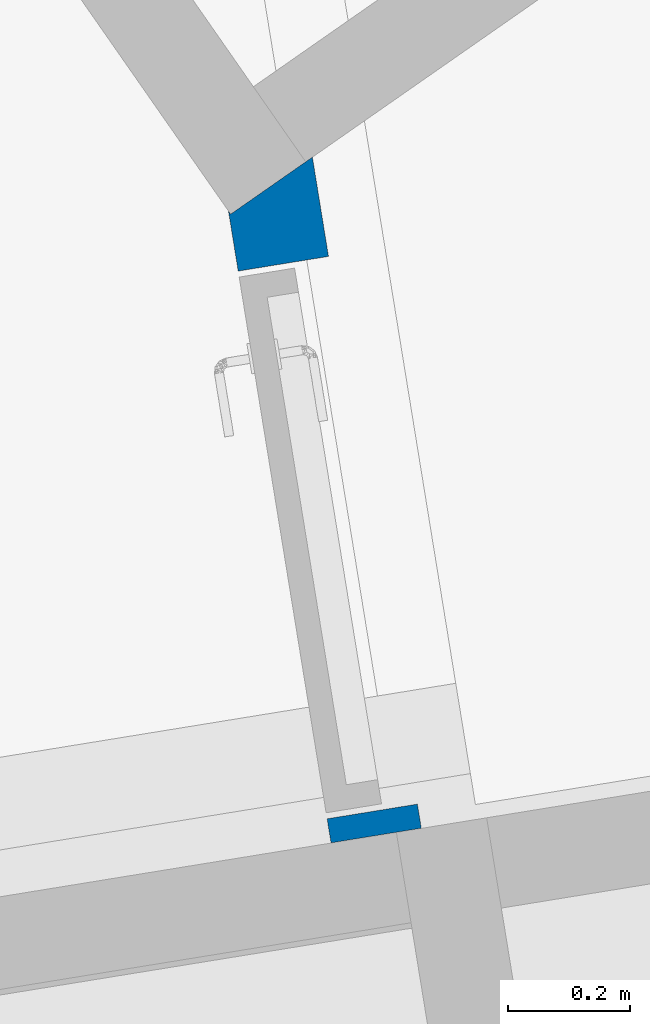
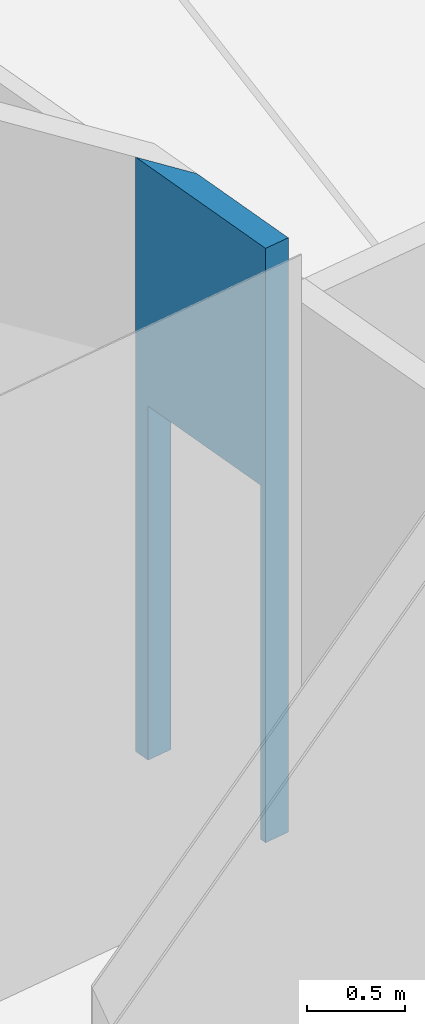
# One storey, part 19 of 23: 1 wall, 1 opening.
"""IFC2X3 building model written with IfcOpenShell, lengths in millimetres."""

from ifc_helpers import new_model, entity, si_unit, converted_unit, derived_unit, direction, frame, frame_2d, origin, origin_with_axes, place, context, subcontext, project, spatial, rectangle, extrude, faceted_brep, material, layer, layer_set, type_object, element, save


model = new_model("IFC2X3")

# Units and contexts
plan_context = context("Plan", 3, precision=1e-05, world=origin_with_axes())
model_context = context("Model", 3, precision=0.01, world=origin(), true_north=direction((6.12323399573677e-17, 1.0)))
body_context = subcontext(model_context, "Body", "Model", "MODEL_VIEW")
ifc_project = project(units=[converted_unit("PLANEANGLEUNIT", "DEGREE", entity("IfcPositiveLengthMeasure", 0.0174532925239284), si_unit("PLANEANGLEUNIT", "RADIAN"), dimensions=[0, 0, 0, 0, 0, 0, 0]), si_unit("AREAUNIT", "SQUARE_METRE"), si_unit("LENGTHUNIT", "METRE", prefix="MILLI"), si_unit("MASSUNIT", "GRAM", prefix="KILO"), si_unit("POWERUNIT", "WATT"), si_unit("PRESSUREUNIT", "PASCAL", prefix="KILO"), si_unit("FORCEUNIT", "NEWTON", prefix="KILO"), si_unit("ELECTRICVOLTAGEUNIT", "VOLT"), si_unit("ELECTRICCURRENTUNIT", "AMPERE"), si_unit("THERMODYNAMICTEMPERATUREUNIT", "DEGREE_CELSIUS"), si_unit("TIMEUNIT", "SECOND"), si_unit("VOLUMEUNIT", "CUBIC_METRE"), derived_unit("LINEARVELOCITYUNIT", [(si_unit("LENGTHUNIT", "METRE"), 1), (si_unit("TIMEUNIT", "SECOND"), -1)]), derived_unit("VOLUMETRICFLOWRATEUNIT", [(si_unit("VOLUMEUNIT", "CUBIC_METRE"), 1), (si_unit("TIMEUNIT", "SECOND"), -1)]), derived_unit("THERMALTRANSMITTANCEUNIT", [(si_unit("POWERUNIT", "WATT"), 1), (si_unit("THERMODYNAMICTEMPERATUREUNIT", "KELVIN"), -1), (si_unit("AREAUNIT", "SQUARE_METRE"), -1)]), derived_unit("SOUNDPRESSUREUNIT", [(si_unit("PRESSUREUNIT", "PASCAL"), 1)])], contexts=[model_context, plan_context])

# Site, building, storey
site_placement = place(None, frame((-0.00071070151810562, 0.00438415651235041, 0.0), z_axis=(0.0, 0.0, 1.0), x_axis=(-0.160236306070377, 0.987078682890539, 0.0)))
site = spatial("IfcSite", under=ifc_project, at=site_placement, Name="Default", CompositionType="ELEMENT")
building_placement = place(site_placement, origin_with_axes())
building = spatial("IfcBuilding", under=site, at=building_placement, Name="TOO", CompositionType="ELEMENT")
storey_placement = place(building_placement, frame((0.0, 0.0, 58999.9999999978), z_axis=(0.0, 0.0, 1.0), x_axis=(1.0, 0.0, 0.0)))
storey = spatial("IfcBuildingStorey", under=building, at=storey_placement, Name="Nivå F", CompositionType="ELEMENT", Elevation=58999.9999999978)

# Wall, opening
ifc_material_1 = material(Name="A240 - Gipsplate")
ifc_layer_1 = layer(ifc_material_1, 12.5)
ifc_layer_2 = layer(ifc_material_1, 12.5)
ifc_material_2 = material(Name="A200 - Isolasjon - Rock Wool")
ifc_layer_3 = layer(ifc_material_2, 100.0)
ifc_layer_4 = layer(ifc_material_1, 12.5)
ifc_layer_5 = layer(ifc_material_1, 12.5)
ifc_layer_set = layer_set([ifc_layer_1, ifc_layer_2, ifc_layer_3, ifc_layer_4, ifc_layer_5], Name="Basic Wall:A242 - GG100/100GG")
wall_type = type_object("IfcWallType", Name="Basic Wall:A242 - GG100/100GG", PredefinedType="STANDARD", material=ifc_layer_set)
wall_placement = place(storey_placement, frame((771002.966281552, -503796.1967943, 0.0), z_axis=(0.0, 0.0, 1.0), x_axis=(1.0, 0.0, 0.0)))
wall = element("IfcWall", 1, at=wall_placement, inside=storey, type_object=wall_type, Name="Basic Wall:A242 - GG100/100GG", ObjectType="Basic Wall:A242 - GG100/100GG", context=body_context, shape_type="Brep", body=[
    faceted_brep([(737.831779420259, -75.0, 3710.0), (0.0, -75.0, 3710.0), (0.0, -75.0, 0.0), (40.0, -75.0, 0.0), (40.0, -75.0, 2210.0), (737.831779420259, -75.0, 2210.0), (0.0, 75.0, 3710.0), (1050.0, 75.0, 3710.0), (1050.0, 75.0, 2200.0), (1050.0, 75.0, 0.0), (950.0, 75.0, 0.0), (950.0, 75.0, 2210.0), (40.0, 75.0, 2210.0), (40.0, 75.0, 0.0), (0.0, 75.0, 0.0), (1114.96869999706, -75.0, 2200.0), (1109.19117282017, -62.9762641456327, 2200.0), (1044.22546029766, 72.2252750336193, 2200.0), (950.0, 26.9489845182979, 2200.0), (950.0, -75.0, 2200.0), (1084.16831797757, -75.0, 2200.0), (1114.96869999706, -75.0, 0.0), (1109.19117282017, -62.9762641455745, 0.0), (1044.22546029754, 72.225275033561, 0.0), (950.0, 26.9489845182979, 2210.0), (950.0, -75.0, 0.0)], [[[0, 1, 2, 3, 4, 5]], [[6, 7, 8, 9, 10, 11, 12, 13, 14]], [[2, 14, 13, 3]], [[1, 0, 7, 6]], [[2, 1, 6, 14]], [[15, 16, 17, 18, 19, 20]], [[15, 21, 22, 23, 17, 16]], [[9, 8, 17, 23]], [[8, 7, 0, 5, 24, 18, 17]], [[12, 4, 3, 13]], [[4, 12, 11, 24, 5]], [[24, 11, 10, 25, 19, 18]], [[9, 23, 22, 21, 25, 10]], [[21, 15, 20, 19, 25]]]),
])
opening_placement = place(wall_placement, frame((40.0, -74.9999999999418, 0.0), z_axis=(0.0, 0.0, 1.0), x_axis=(1.0, 0.0, 0.0)))
element("IfcOpeningElement", 2, at=opening_placement, cuts=wall, Name="A200 - Slagdør - Enfløyet:A244 - DI_LSO - 0890 x 2190 mm:1", ObjectType="Opening", shape_type="SweptSolid", body=[
    extrude(rectangle(XDim=2209.99999999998, YDim=909.999999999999, at=frame_2d((1104.99999999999, 455.0), x_axis=(1.0, 0.0))), frame((0.0, 0.0, 0.0), z_axis=(0.0, 1.0, 0.0), x_axis=(0.0, 0.0, 1.0)), (0.0, 0.0, 1.0), 150.0),
])

save(model, "model.ifc")
